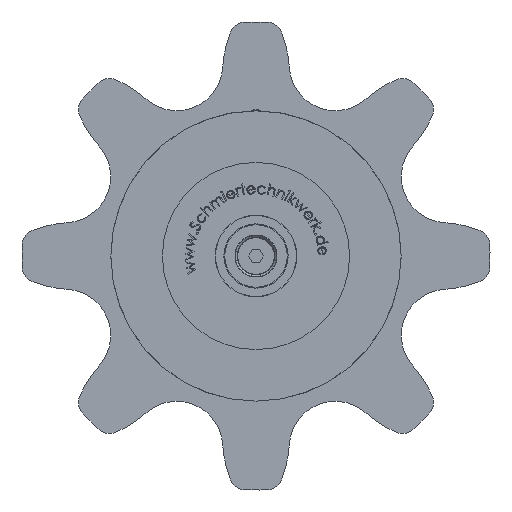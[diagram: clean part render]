
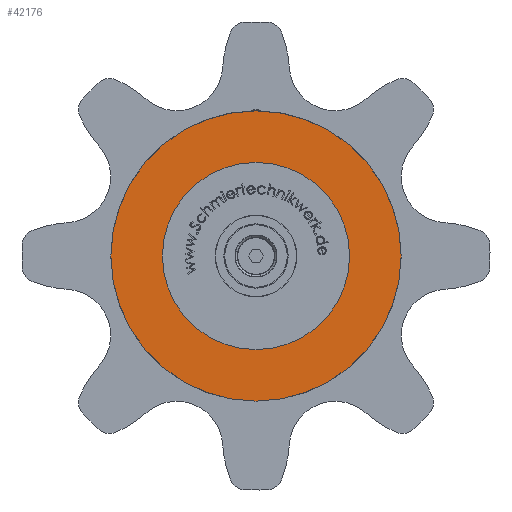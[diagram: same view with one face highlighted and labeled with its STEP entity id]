
A CAD part, front view. The second image highlights one B-rep face of the part: STEP entity #42176.
In plain terms, the highlighted planar face has unit normal (0, -1, 0).
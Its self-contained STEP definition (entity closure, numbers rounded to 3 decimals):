
#52 = CARTESIAN_POINT ( 'NONE',  ( 0., -120.7, 13.109 ) ) ;
#2849 = AXIS2_PLACEMENT_3D ( 'NONE', #14724, #47347, #33624 ) ;
#4044 = CIRCLE ( 'NONE', #31661, 46.5 ) ;
#5151 = CARTESIAN_POINT ( 'NONE',  ( 0., -120.7, -46.5 ) ) ;
#8052 = CARTESIAN_POINT ( 'NONE',  ( 0., -120.7, 46.5 ) ) ;
#9809 = DIRECTION ( 'NONE',  ( 0., 1., 0. ) ) ;
#10671 = VERTEX_POINT ( 'NONE', #5151 ) ;
#11162 = FACE_BOUND ( 'NONE', #45767, .T. ) ;
#13448 = CARTESIAN_POINT ( 'NONE',  ( 0., -120.7, 0. ) ) ;
#14724 = CARTESIAN_POINT ( 'NONE',  ( 0., -120.7, 0. ) ) ;
#15965 = EDGE_CURVE ( 'NONE', #10671, #10671, #4044, .T. ) ;
#17906 = PLANE ( 'NONE',  #21558 ) ;
#21284 = CIRCLE ( 'NONE', #2849, 13.109 ) ;
#21558 = AXIS2_PLACEMENT_3D ( 'NONE', #8052, #44289, #26006 ) ;
#21930 = VERTEX_POINT ( 'NONE', #52 ) ;
#26006 = DIRECTION ( 'NONE',  ( 0., 0., 1. ) ) ;
#31595 = EDGE_CURVE ( 'NONE', #21930, #21930, #21284, .T. ) ;
#31661 = AXIS2_PLACEMENT_3D ( 'NONE', #13448, #9809, #40469 ) ;
#33624 = DIRECTION ( 'NONE',  ( 0., 0., 1. ) ) ;
#38344 = ORIENTED_EDGE ( 'NONE', *, *, #15965, .F. ) ;
#39931 = FACE_OUTER_BOUND ( 'NONE', #41426, .T. ) ;
#40469 = DIRECTION ( 'NONE',  ( 0., 0., -1. ) ) ;
#41243 = ORIENTED_EDGE ( 'NONE', *, *, #31595, .F. ) ;
#41426 = EDGE_LOOP ( 'NONE', ( #38344 ) ) ;
#42176 = ADVANCED_FACE ( 'NONE', ( #11162, #39931 ), #17906, .F. ) ;
#44289 = DIRECTION ( 'NONE',  ( 0., 1., 0. ) ) ;
#45767 = EDGE_LOOP ( 'NONE', ( #41243 ) ) ;
#47347 = DIRECTION ( 'NONE',  ( 0., -1., 0. ) ) ;
